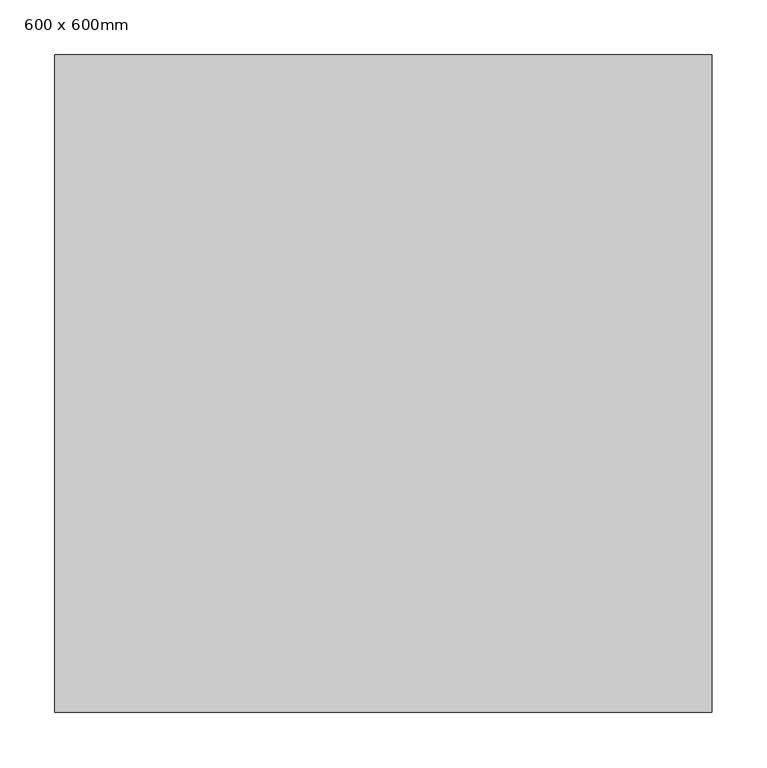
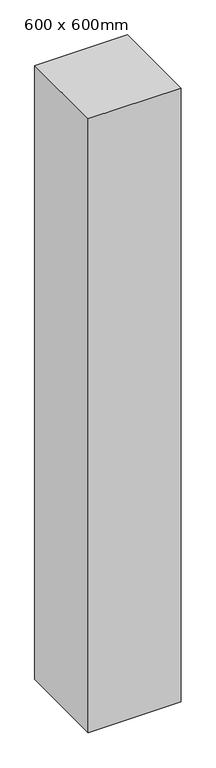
"""IFC4 building model written with IfcOpenShell, lengths in millimetres: column geometry, 矩形柱 : 600 x 600mm."""

from ifc_helpers import new_model, si_unit, origin, origin_with_axes, place, context, project, spatial, polyline, outline, extrude, source, transform, mapped, element, save


def column_600_x_600mm_39ac082c(model_context):
    return source(origin(), model_context, "Body", "SweptSolid", [
        extrude(outline(polyline([(300.0, 300.0), (300.0, -300.0), (-300.0, -300.0), (-300.0, 300.0), (300.0, 300.0)])), origin_with_axes(), (0.0, 0.0, 1.0), 4200.0),
    ])


if __name__ == "__main__":
    model = new_model("IFC4")
    model_context = context("Model", 3, world=origin())
    ifc_project = project(units=[si_unit("LENGTHUNIT", "METRE", prefix="MILLI")], contexts=[model_context])
    site = spatial("IfcSite", under=ifc_project)
    building = spatial("IfcBuilding", under=site)
    placement = place(None, origin())
    column_600_x_600mm_shape = column_600_x_600mm_39ac082c(model_context)
    element("IfcColumn", 1, ObjectType="矩形柱 : 600 x 600mm", at=placement, inside=building, context=model_context, shape_type="MappedRepresentation", body=[
        mapped(column_600_x_600mm_shape, transform((0.0, 0.0, 0.0), x_axis=(1.0, 0.0, 0.0), y_axis=(0.0, 1.0, 0.0), z_axis=(0.0, 0.0, 1.0))),
    ])
    save(model, "model.ifc")
